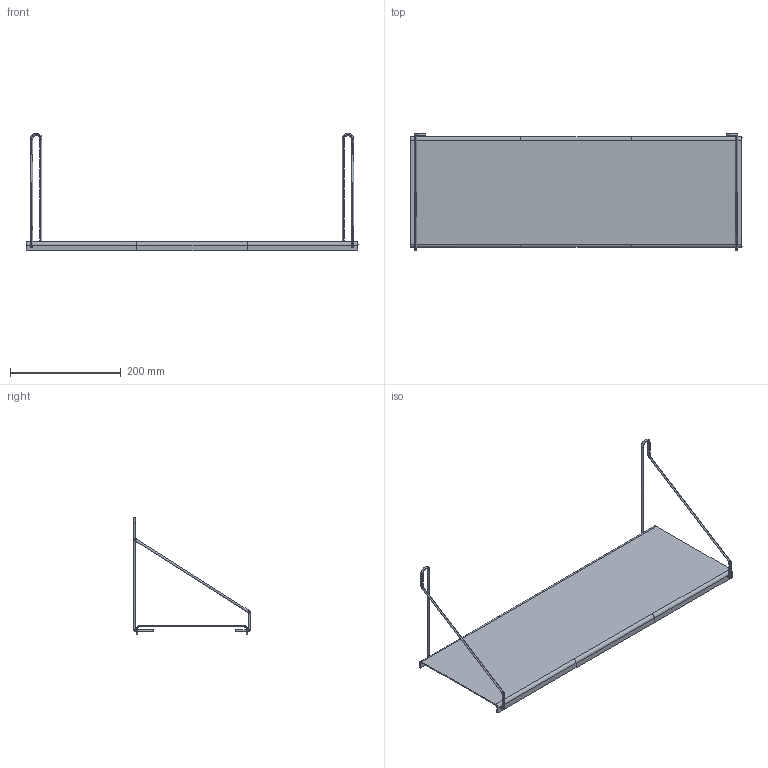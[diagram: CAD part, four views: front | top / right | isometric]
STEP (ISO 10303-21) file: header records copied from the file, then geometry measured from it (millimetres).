
FILE_DESCRIPTION(/* description */ (''),/* implementation_level */ '2;1');
FILE_NAME(/* name */ 'FRAMA_Shelf_Library_Single_Shelf_20x60_3D_File',/* time_stamp */ '2023-05-26T09:33:29+02:00',/* author */ (''),/* organization */ (''),/* preprocessor_version */ 'ST-DEVELOPER v16.5',/* originating_system */ 'Rhino 7.29',/* authorisation */ '');
FILE_SCHEMA (('CONFIG_CONTROL_DESIGN'));
Length unit declared in the file: millimetre
Products named in the file (5): Document; Block 01; Block 02; Block 03; Block 04
Assembly tree (4 placements, depth 2):
  Document
    Block 01
    Block 02
    Block 03
    Block 04
Bounding box: 600 x 211.32 x 211.9 mm (x, y, z)
Volume: 225710.9 mm3; surface area: 304826.4 mm2
Topology: 5 solids, 21 shells, 844 faces, 2844 edges, 1670 vertices
Faces by surface type: cylinder 496, bspline 292, plane 56
Full cylindrical faces by diameter (mm): 4 x72
Entity records: 45415 total; most frequent: CARTESIAN_POINT 30636, ORIENTED_EDGE 4778, EDGE_CURVE 2532, VERTEX_POINT 1524, B_SPLINE_CURVE_WITH_KNOTS 1190, EDGE_LOOP 856, ADVANCED_FACE 844, FACE_OUTER_BOUND 844
